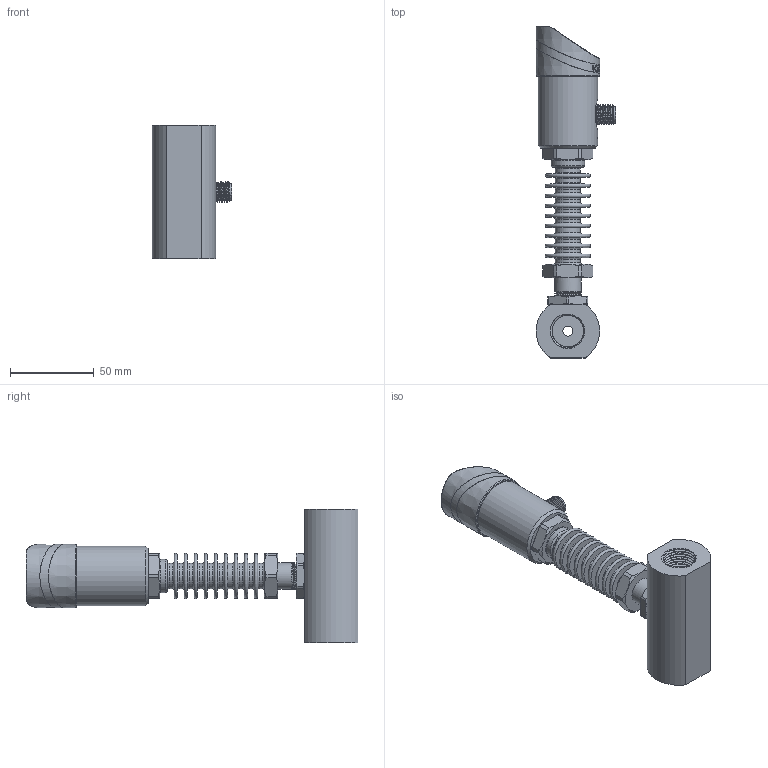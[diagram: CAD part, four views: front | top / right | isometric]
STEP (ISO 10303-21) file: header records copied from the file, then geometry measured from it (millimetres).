
FILE_DESCRIPTION( (''), '2;1');
FILE_NAME( 'QTKE_DN6_female-thread_high-temp.step', '2024-10-15T13:54:42+08:00', (''), (''), '', '', '');
FILE_SCHEMA (('AUTOMOTIVE_DESIGN { 1 0 10303 214 3 1 1 1 }'));
Products named in the file (1): QTKE DN6_female-thread_high-temp
Bounding box: 47.7 x 198.5 x 80 mm (x, y, z)
Volume: 108155.8 mm3; surface area: 61473.6 mm2
Topology: 5 solids, 5 shells, 984 faces, 2521 edges, 1636 vertices
Faces by surface type: plane 402, cylinder 169, extrusion 160, cone 109, bspline 63, torus 60, sphere 21
Full cylindrical faces by diameter (mm): 1.689 x1, 2 x1, 2.7 x6, 3.5 x5, 6 x1, 12 x1, 13 x1, 15 x11, 15.9 x1, 20 x1, 23 x3, 26 x5, 31.7 x1, 32 x1, 34 x1, 34.2 x1, 35.5 x2
Entity records: 48192 total; most frequent: CARTESIAN_POINT 21542, ORIENTED_EDGE 4680, DIRECTION 4048, EDGE_CURVE 2340, VERTEX_POINT 1584, AXIS2_PLACEMENT_3D 1438, EDGE_LOOP 1212, VECTOR 1172
